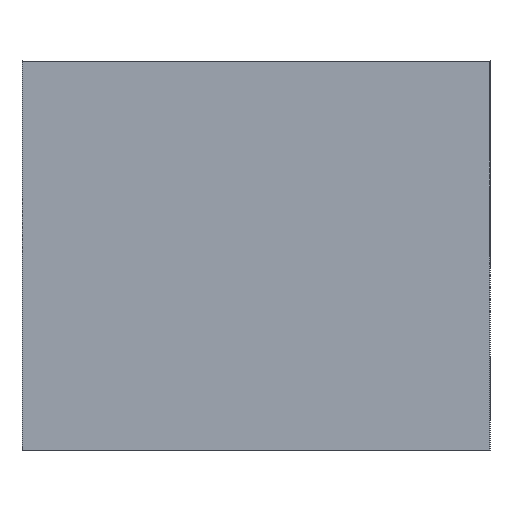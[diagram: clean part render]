
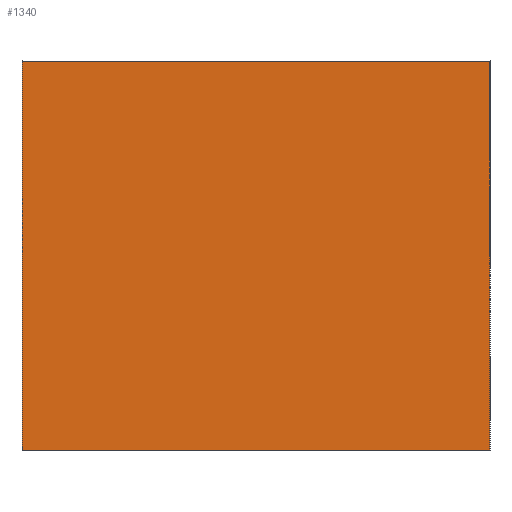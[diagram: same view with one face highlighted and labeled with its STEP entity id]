
A CAD part, left-side view. The second image highlights one B-rep face of the part: STEP entity #1340.
In plain terms, the highlighted planar face has unit normal (1, 0, 0).
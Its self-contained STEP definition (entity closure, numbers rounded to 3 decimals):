
#1301=CARTESIAN_POINT('Axis2P3D Location',(-62.5,0.,0.)) ;
#1306=CARTESIAN_POINT('Line Origine',(-62.5,-30.,0.)) ;
#1310=CARTESIAN_POINT('Vertex',(-62.5,-30.,12.5)) ;
#1312=CARTESIAN_POINT('Vertex',(-62.5,-30.,-12.5)) ;
#1315=CARTESIAN_POINT('Line Origine',(-62.5,-15.,-12.5)) ;
#1319=CARTESIAN_POINT('Vertex',(-62.5,0.,-12.5)) ;
#1322=CARTESIAN_POINT('Line Origine',(-62.5,0.,0.)) ;
#1326=CARTESIAN_POINT('Vertex',(-62.5,0.,12.5)) ;
#1329=CARTESIAN_POINT('Line Origine',(-62.5,-15.,12.5)) ;
#1302=DIRECTION('Axis2P3D Direction',(1.,0.,0.)) ;
#1303=DIRECTION('Axis2P3D XDirection',(0.,1.,0.)) ;
#1307=DIRECTION('Vector Direction',(0.,0.,-1.)) ;
#1316=DIRECTION('Vector Direction',(0.,1.,0.)) ;
#1323=DIRECTION('Vector Direction',(0.,0.,1.)) ;
#1330=DIRECTION('Vector Direction',(0.,-1.,0.)) ;
#1304=AXIS2_PLACEMENT_3D('Plane Axis2P3D',#1301,#1302,#1303) ;
#1335=ORIENTED_EDGE('',*,*,#1314,.T.) ;
#1336=ORIENTED_EDGE('',*,*,#1321,.T.) ;
#1337=ORIENTED_EDGE('',*,*,#1328,.T.) ;
#1338=ORIENTED_EDGE('',*,*,#1333,.T.) ;
#1308=VECTOR('Line Direction',#1307,1.) ;
#1317=VECTOR('Line Direction',#1316,1.) ;
#1324=VECTOR('Line Direction',#1323,1.) ;
#1331=VECTOR('Line Direction',#1330,1.) ;
#1340=ADVANCED_FACE('MANIFOLD_SOLID_BREP #3622',(#1339),#1305,.T.) ;
#1314=EDGE_CURVE('',#1311,#1313,#1309,.T.) ;
#1321=EDGE_CURVE('',#1313,#1320,#1318,.T.) ;
#1328=EDGE_CURVE('',#1320,#1327,#1325,.T.) ;
#1333=EDGE_CURVE('',#1327,#1311,#1332,.T.) ;
#1334=EDGE_LOOP('',(#1335,#1336,#1337,#1338)) ;
#1339=FACE_OUTER_BOUND('',#1334,.T.) ;
#1309=LINE('Line',#1306,#1308) ;
#1318=LINE('Line',#1315,#1317) ;
#1325=LINE('Line',#1322,#1324) ;
#1332=LINE('Line',#1329,#1331) ;
#1305=PLANE('Plane',#1304) ;
#1311=VERTEX_POINT('',#1310) ;
#1313=VERTEX_POINT('',#1312) ;
#1320=VERTEX_POINT('',#1319) ;
#1327=VERTEX_POINT('',#1326) ;
